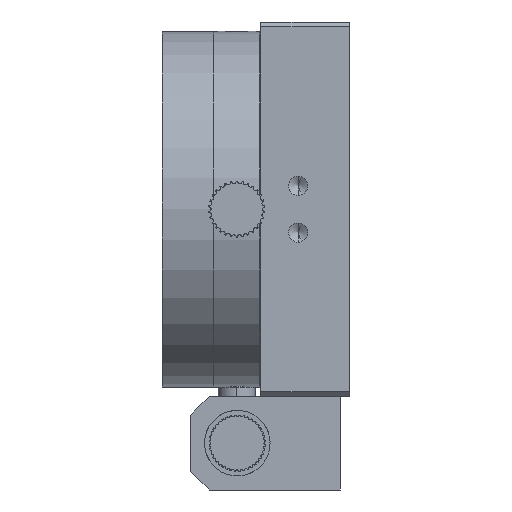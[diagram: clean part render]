
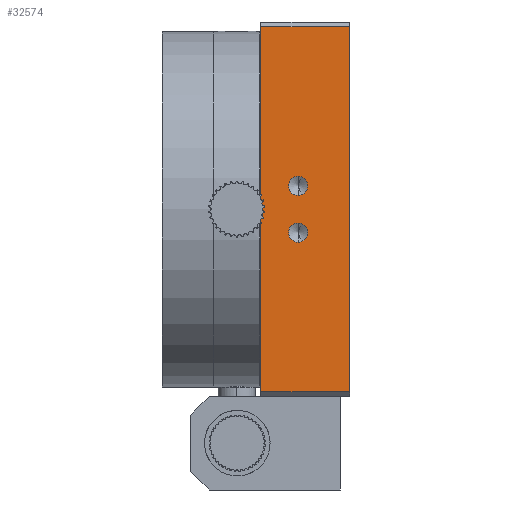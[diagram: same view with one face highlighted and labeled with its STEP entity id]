
A CAD part, left-side view. The second image highlights one B-rep face of the part: STEP entity #32574.
In plain terms, the highlighted planar face has unit normal (-1, 0, 0).
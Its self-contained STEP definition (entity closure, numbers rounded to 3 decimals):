
#1222 = VERTEX_POINT ( 'NONE', #5571 ) ;
#1731 = DIRECTION ( 'NONE',  ( 0., 0., -1. ) ) ;
#1971 = CARTESIAN_POINT ( 'NONE',  ( -20., 0.75, 1.475 ) ) ;
#3929 = ORIENTED_EDGE ( 'NONE', *, *, #26547, .T. ) ;
#4506 = ORIENTED_EDGE ( 'NONE', *, *, #36552, .F. ) ;
#4648 = AXIS2_PLACEMENT_3D ( 'NONE', #11031, #37319, #14821 ) ;
#4862 = VERTEX_POINT ( 'NONE', #10391 ) ;
#5072 = VECTOR ( 'NONE', #43729, 1000. ) ;
#5353 = CARTESIAN_POINT ( 'NONE',  ( -20., 4.75, 20. ) ) ;
#5571 = CARTESIAN_POINT ( 'NONE',  ( -20., -4.75, -19.5 ) ) ;
#5745 = EDGE_LOOP ( 'NONE', ( #33999, #3929, #42526, #40620 ) ) ;
#6066 = LINE ( 'NONE', #46035, #13745 ) ;
#6242 = CARTESIAN_POINT ( 'NONE',  ( -20., -4.75, 20. ) ) ;
#6455 = EDGE_CURVE ( 'NONE', #4862, #16692, #26706, .T. ) ;
#6491 = VERTEX_POINT ( 'NONE', #30505 ) ;
#9744 = CARTESIAN_POINT ( 'NONE',  ( -20., 0.75, -1.475 ) ) ;
#9863 = CARTESIAN_POINT ( 'NONE',  ( -20., 4.75, 19.5 ) ) ;
#10391 = CARTESIAN_POINT ( 'NONE',  ( -20., 0.75, 3.525 ) ) ;
#10444 = CIRCLE ( 'NONE', #4648, 1.025 ) ;
#11031 = CARTESIAN_POINT ( 'NONE',  ( -20., 0.75, -2.5 ) ) ;
#13745 = VECTOR ( 'NONE', #23512, 1000. ) ;
#14821 = DIRECTION ( 'NONE',  ( 0., 0., 1. ) ) ;
#14928 = DIRECTION ( 'NONE',  ( -1., 0., 0. ) ) ;
#16262 = LINE ( 'NONE', #6242, #5072 ) ;
#16692 = VERTEX_POINT ( 'NONE', #1971 ) ;
#17229 = DIRECTION ( 'NONE',  ( 0., 0., -1. ) ) ;
#17449 = CARTESIAN_POINT ( 'NONE',  ( -20., 0.75, 2.5 ) ) ;
#19414 = FACE_BOUND ( 'NONE', #47547, .T. ) ;
#20452 = PLANE ( 'NONE',  #24629 ) ;
#20618 = VERTEX_POINT ( 'NONE', #39096 ) ;
#21226 = DIRECTION ( 'NONE',  ( 0., 0., 1. ) ) ;
#21818 = CARTESIAN_POINT ( 'NONE',  ( -20., 4.75, 19.5 ) ) ;
#22749 = ORIENTED_EDGE ( 'NONE', *, *, #6455, .F. ) ;
#22853 = VERTEX_POINT ( 'NONE', #21818 ) ;
#23512 = DIRECTION ( 'NONE',  ( 0., -1., 0. ) ) ;
#24268 = DIRECTION ( 'NONE',  ( 1., 0., 0. ) ) ;
#24629 = AXIS2_PLACEMENT_3D ( 'NONE', #5353, #24268, #1731 ) ;
#24893 = EDGE_CURVE ( 'NONE', #6491, #34576, #26206, .T. ) ;
#26206 = CIRCLE ( 'NONE', #35472, 1.025 ) ;
#26547 = EDGE_CURVE ( 'NONE', #39171, #1222, #6066, .T. ) ;
#26706 = CIRCLE ( 'NONE', #32098, 1.025 ) ;
#28533 = VECTOR ( 'NONE', #17229, 1000. ) ;
#28541 = CARTESIAN_POINT ( 'NONE',  ( -20., 4.75, 20. ) ) ;
#30063 = DIRECTION ( 'NONE',  ( 0., 0., 1. ) ) ;
#30505 = CARTESIAN_POINT ( 'NONE',  ( -20., 0.75, -3.525 ) ) ;
#32098 = AXIS2_PLACEMENT_3D ( 'NONE', #48453, #35280, #30063 ) ;
#32574 = ADVANCED_FACE ( 'NONE', ( #48222, #19414, #38233 ), #20452, .F. ) ;
#33999 = ORIENTED_EDGE ( 'NONE', *, *, #38407, .T. ) ;
#34576 = VERTEX_POINT ( 'NONE', #9744 ) ;
#35280 = DIRECTION ( 'NONE',  ( -1., 0., 0. ) ) ;
#35472 = AXIS2_PLACEMENT_3D ( 'NONE', #37423, #14928, #41192 ) ;
#35577 = EDGE_LOOP ( 'NONE', ( #22749, #39364 ) ) ;
#36175 = DIRECTION ( 'NONE',  ( 0., 1., 0. ) ) ;
#36552 = EDGE_CURVE ( 'NONE', #34576, #6491, #10444, .T. ) ;
#37319 = DIRECTION ( 'NONE',  ( -1., 0., 0. ) ) ;
#37423 = CARTESIAN_POINT ( 'NONE',  ( -20., 0.75, -2.5 ) ) ;
#38233 = FACE_OUTER_BOUND ( 'NONE', #5745, .T. ) ;
#38407 = EDGE_CURVE ( 'NONE', #22853, #39171, #48530, .T. ) ;
#39096 = CARTESIAN_POINT ( 'NONE',  ( -20., -4.75, 19.5 ) ) ;
#39150 = EDGE_CURVE ( 'NONE', #16692, #4862, #46126, .T. ) ;
#39171 = VERTEX_POINT ( 'NONE', #47489 ) ;
#39364 = ORIENTED_EDGE ( 'NONE', *, *, #39150, .F. ) ;
#39940 = EDGE_CURVE ( 'NONE', #20618, #22853, #44929, .T. ) ;
#40620 = ORIENTED_EDGE ( 'NONE', *, *, #39940, .T. ) ;
#41192 = DIRECTION ( 'NONE',  ( 0., 0., 1. ) ) ;
#42526 = ORIENTED_EDGE ( 'NONE', *, *, #47420, .F. ) ;
#43729 = DIRECTION ( 'NONE',  ( 0., 0., -1. ) ) ;
#43745 = DIRECTION ( 'NONE',  ( -1., 0., 0. ) ) ;
#44758 = ORIENTED_EDGE ( 'NONE', *, *, #24893, .F. ) ;
#44929 = LINE ( 'NONE', #9863, #47245 ) ;
#46035 = CARTESIAN_POINT ( 'NONE',  ( -20., 4.75, -19.5 ) ) ;
#46126 = CIRCLE ( 'NONE', #46959, 1.025 ) ;
#46959 = AXIS2_PLACEMENT_3D ( 'NONE', #17449, #43745, #21226 ) ;
#47245 = VECTOR ( 'NONE', #36175, 1000. ) ;
#47420 = EDGE_CURVE ( 'NONE', #20618, #1222, #16262, .T. ) ;
#47489 = CARTESIAN_POINT ( 'NONE',  ( -20., 4.75, -19.5 ) ) ;
#47547 = EDGE_LOOP ( 'NONE', ( #4506, #44758 ) ) ;
#48222 = FACE_BOUND ( 'NONE', #35577, .T. ) ;
#48453 = CARTESIAN_POINT ( 'NONE',  ( -20., 0.75, 2.5 ) ) ;
#48530 = LINE ( 'NONE', #28541, #28533 ) ;
